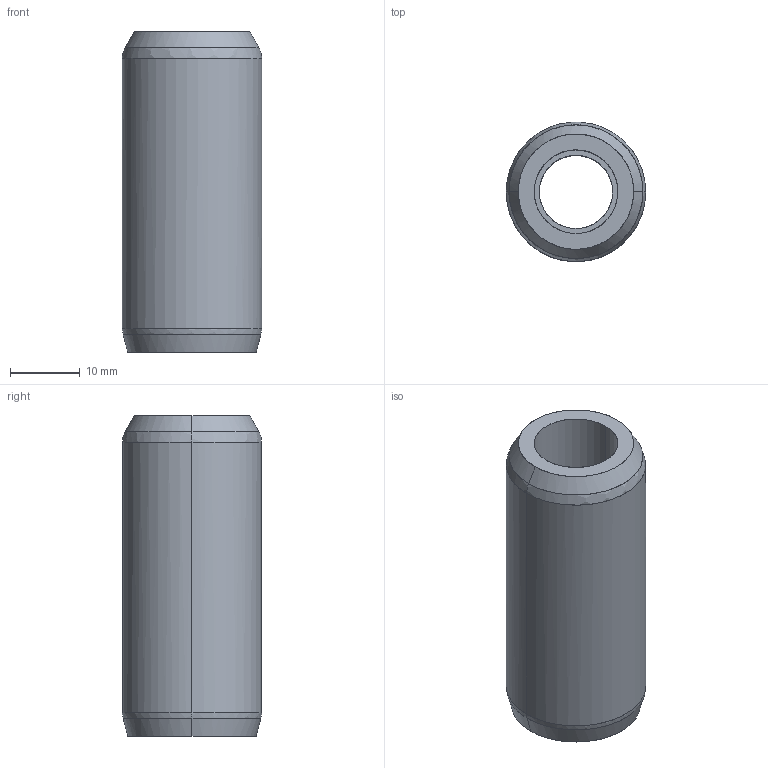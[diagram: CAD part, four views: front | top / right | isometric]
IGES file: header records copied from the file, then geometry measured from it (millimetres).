
Global section: file name: E:\UnigraphicsGraphicData\MISUMI_PRESS-PARTS\IGES\3d_tlpa20_07124_r00.igs; native system: NX V5.0; preprocessor: UGS NX IGES V5.0; author: MISUMI; date: 20110105.163430; units: millimetre
Bounding box: 20 x 19.98 x 46 mm (x, y, z)
Surface area: 4816.3 mm2 (no closed solid volume)
Topology: 0 solids, 0 shells, 17 faces, 104 edges, 104 vertices
Faces by surface type: bspline 17
